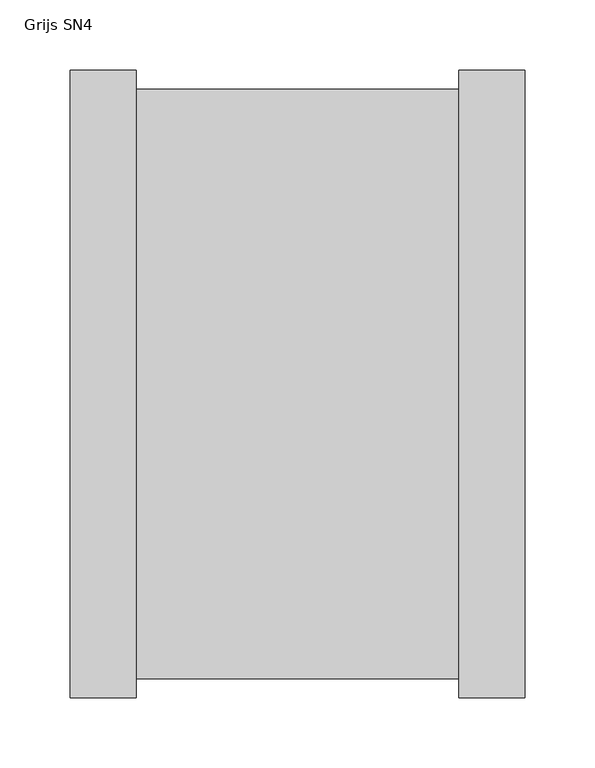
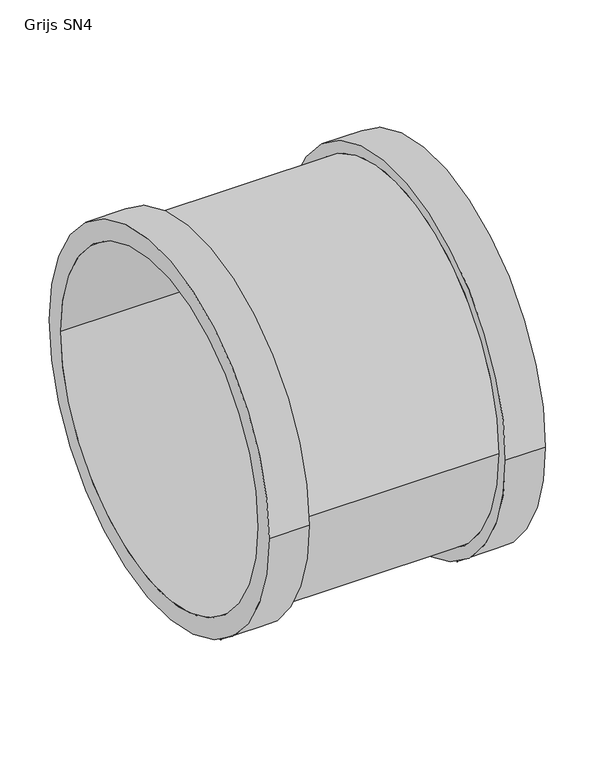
"""IFC4 building model written with IfcOpenShell, lengths in millimetres: pipe fitting geometry, NLRS_52_PIF_UN_SN4 SN8 overschuifmof 2FM_Dyka : Grijs SN4."""

from ifc_helpers import new_model, si_unit, frame, origin, place, context, project, spatial, polyline, circle_curve, source, transform, mapped, element, save
from ifc_brep_helpers import plane_surface, cylinder_surface, revolved_surface, advanced_brep


def grijs_sn4_f8accaa5(model_context):
    return source(origin(), model_context, "Body", "AdvancedBrep", [
        advanced_brep(
        [(162.0, -223.5, 0.0), (162.0, 223.5, 0.0), (162.0, -200.0, 0.0), (162.0, 200.0, 0.0), (115.0, -200.0, 0.0), (115.0, 200.0, 0.0), (115.0, -223.5, 0.0), (115.0, 223.5, 0.0), (-162.0, -223.5, 0.0), (-162.0, 223.5, 0.0), (-162.0, -200.0, 0.0), (-162.0, 200.0, 0.0), (-115.0, 200.0, 0.0), (-115.0, -200.0, 0.0), (115.0, 209.9, 0.0), (115.0, -209.9, 0.0), (-115.0, -209.9, 0.0), (-115.0, 209.9, 0.0), (-115.0, -223.5, 0.0), (-115.0, 223.5, 0.0)],
        [
            (0, 1, circle_curve(frame((162.0, 0.0, 0.0), z_axis=(1.0, 0.0, 0.0), x_axis=(0.0, 1.0, 0.0)), 223.5)),
            (1, 0, circle_curve(frame((162.0, 0.0, 0.0), z_axis=(1.0, 0.0, 0.0), x_axis=(0.0, 1.0, 0.0)), 223.5)),
            (2, 3, circle_curve(frame((162.0, 0.0, 0.0), z_axis=(-1.0, 0.0, 0.0), x_axis=(0.0, 1.0, 0.0)), 200.0)),
            (3, 2, circle_curve(frame((162.0, 0.0, 0.0), z_axis=(-1.0, 0.0, 0.0), x_axis=(0.0, 1.0, 0.0)), 200.0)),
            (2, 4),
            (4, 5, circle_curve(frame((115.0, 0.0, 0.0), z_axis=(-1.0, 0.0, 0.0), x_axis=(0.0, 1.0, 0.0)), 200.0)),
            (5, 3),
            (5, 4, circle_curve(frame((115.0, 0.0, 0.0), z_axis=(-1.0, 0.0, 0.0), x_axis=(0.0, 1.0, 0.0)), 200.0)),
            (6, 7, circle_curve(frame((115.0, 0.0, 0.0), z_axis=(1.0, 0.0, 0.0), x_axis=(0.0, 1.0, 0.0)), 223.5)),
            (7, 1),
            (0, 6),
            (7, 6, circle_curve(frame((115.0, 0.0, 0.0), z_axis=(1.0, 0.0, 0.0), x_axis=(0.0, 1.0, 0.0)), 223.5)),
            (8, 9, circle_curve(frame((-162.0, 0.0, 0.0), z_axis=(-1.0, 0.0, 0.0), x_axis=(0.0, 1.0, 0.0)), 223.5)),
            (9, 8, circle_curve(frame((-162.0, 0.0, 0.0), z_axis=(-1.0, 0.0, 0.0), x_axis=(0.0, 1.0, 0.0)), 223.5)),
            (10, 11, circle_curve(frame((-162.0, 0.0, 0.0), z_axis=(1.0, 0.0, 0.0), x_axis=(0.0, 1.0, 0.0)), 200.0)),
            (11, 10, circle_curve(frame((-162.0, 0.0, 0.0), z_axis=(1.0, 0.0, 0.0), x_axis=(0.0, 1.0, 0.0)), 200.0)),
            (11, 12),
            (12, 5),
            (4, 13),
            (13, 10),
            (14, 15, circle_curve(frame((115.0, 0.0, 0.0), z_axis=(-1.0, 0.0, 0.0), x_axis=(0.0, 1.0, 0.0)), 209.9)),
            (15, 16),
            (16, 17, circle_curve(frame((-115.0, 0.0, 0.0), z_axis=(1.0, 0.0, 0.0), x_axis=(0.0, 1.0, 0.0)), 209.9)),
            (17, 14),
            (15, 14, circle_curve(frame((115.0, 0.0, 0.0), z_axis=(-1.0, 0.0, 0.0), x_axis=(0.0, 1.0, 0.0)), 209.9)),
            (17, 16, circle_curve(frame((-115.0, 0.0, 0.0), z_axis=(1.0, 0.0, 0.0), x_axis=(0.0, 1.0, 0.0)), 209.9)),
            (18, 19, circle_curve(frame((-115.0, 0.0, 0.0), z_axis=(1.0, 0.0, 0.0), x_axis=(0.0, 1.0, 0.0)), 223.5)),
            (19, 18, circle_curve(frame((-115.0, 0.0, 0.0), z_axis=(1.0, 0.0, 0.0), x_axis=(0.0, 1.0, 0.0)), 223.5)),
            (18, 8),
            (9, 19),
        ],
        [
            plane_surface(frame((162.0, 200.0, 0.0), z_axis=(1.0, 0.0, 0.0), x_axis=(0.0, 0.0, -1.0))),
            revolved_surface(polyline([(115.0, 200.0, 0.0), (162.0, 200.0, 0.0)]), (115.0, 0.0, 0.0), (-1.0, 0.0, 0.0)),
            cylinder_surface(frame((0.0, 0.0, 0.0), z_axis=(1.0, 0.0, 0.0), x_axis=(0.0, 1.0, 0.0)), 223.5),
            plane_surface(frame((-162.0, 200.0, 0.0), z_axis=(-1.0, 0.0, 0.0), x_axis=(0.0, 0.0, 1.0))),
            revolved_surface(polyline([(-162.0, 200.0, 0.0), (115.0, 200.0, 0.0)]), (-162.0, 0.0, 0.0), (-1.0, 0.0, 0.0)),
            cylinder_surface(frame((0.0, 0.0, 0.0), z_axis=(1.0, 0.0, 0.0), x_axis=(0.0, 1.0, 0.0)), 209.9),
            plane_surface(frame((115.0, 200.0, 0.0), z_axis=(-1.0, 0.0, 0.0), x_axis=(0.0, 0.0, 1.0))),
            plane_surface(frame((-115.0, 200.0, 0.0), z_axis=(1.0, 0.0, 0.0), x_axis=(0.0, 0.0, -1.0))),
        ],
        [
            (0, [[1, 2], [3, 4]]),
            (1, [[-3, 5, 6, 7]]),
            (1, [[-4, -7, 8, -5]]),
            (2, [[9, 10, -1, 11]]),
            (2, [[12, -11, -2, -10]]),
            (3, [[13, 14], [15, 16]]),
            (4, [[-16, 17, 18, -6, 19, 20]]),
            (4, [[-15, -20, -19, -8, -18, -17]]),
            (5, [[21, 22, 23, 24]]),
            (5, [[25, -24, 26, -22]]),
            (6, [[-12, -9], [-21, -25]]),
            (7, [[27, 28], [-23, -26]]),
            (2, [[-27, 29, -14, 30]]),
            (2, [[-28, -30, -13, -29]]),
        ],
    ),
    ])


if __name__ == "__main__":
    model = new_model("IFC4")
    model_context = context("Model", 3, world=origin())
    ifc_project = project(units=[si_unit("LENGTHUNIT", "METRE", prefix="MILLI")], contexts=[model_context])
    site = spatial("IfcSite", under=ifc_project)
    building = spatial("IfcBuilding", under=site)
    placement = place(None, origin())
    grijs_sn4_shape = grijs_sn4_f8accaa5(model_context)
    element("IfcPipeFitting", 1, ObjectType="NLRS_52_PIF_UN_SN4 SN8 overschuifmof 2FM_Dyka : Grijs SN4", at=placement, inside=building, context=model_context, shape_type="MappedRepresentation", body=[
        mapped(grijs_sn4_shape, transform((0.0, 0.0, 0.0), x_axis=(1.0, 0.0, 0.0), y_axis=(0.0, 1.0, 0.0), z_axis=(0.0, 0.0, 1.0))),
    ])
    save(model, "model.ifc")
